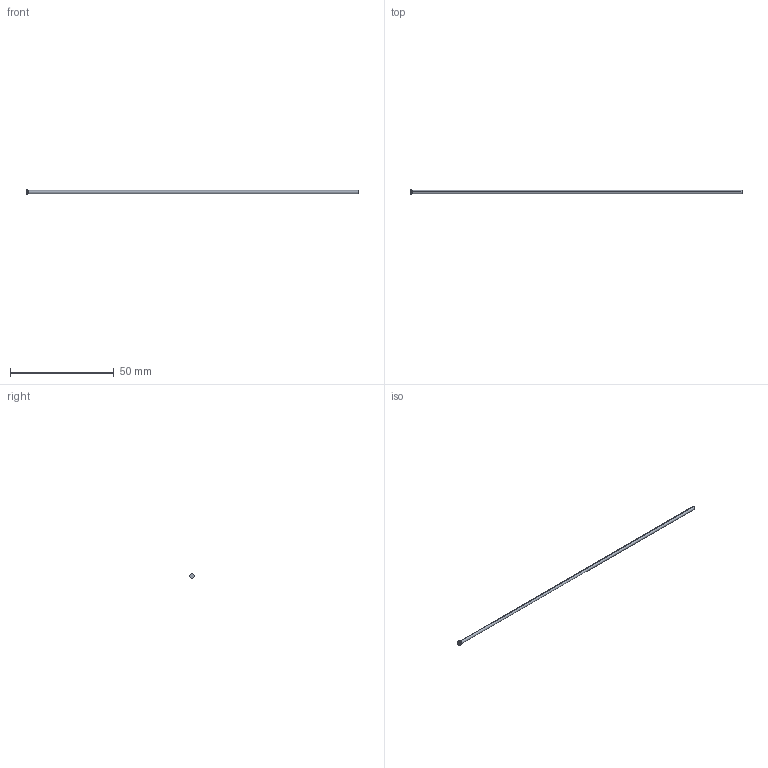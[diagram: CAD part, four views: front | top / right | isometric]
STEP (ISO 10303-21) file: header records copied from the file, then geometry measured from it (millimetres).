
FILE_DESCRIPTION (( 'STEP AP214' ), '1' );
FILE_NAME ('D-1,5x160.STEP', '2020-06-08T09:20:48', ( 'August' ), ( '' ), 'SwSTEP 2.0', 'SolidWorks 2018', '' );
FILE_SCHEMA (( 'AUTOMOTIVE_DESIGN' ));
Length unit declared in the file: millimetre
Products named in the file (1): D-1,5x160
Bounding box: 160 x 2.2 x 2.2 mm (x, y, z)
Volume: 284.4 mm3; surface area: 761.8 mm2
Topology: 1 solids, 1 shells, 10 faces, 18 edges, 10 vertices
Faces by surface type: cylinder 4, torus 2, cone 2, plane 2
Entity records: 280 total; most frequent: DIRECTION 52, CARTESIAN_POINT 39, ORIENTED_EDGE 36, AXIS2_PLACEMENT_3D 23, EDGE_CURVE 18, CIRCLE 12, VERTEX_POINT 10, ADVANCED_FACE 10
